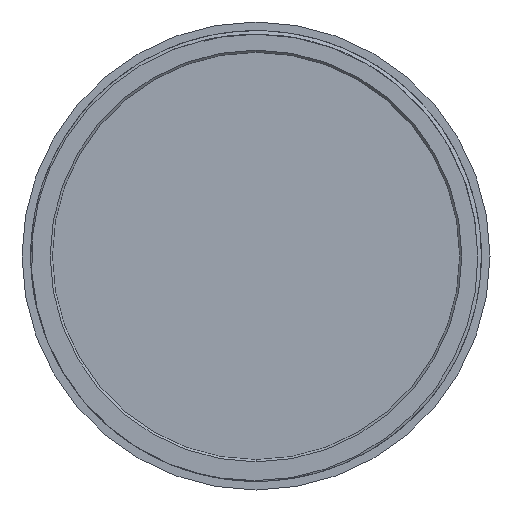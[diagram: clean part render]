
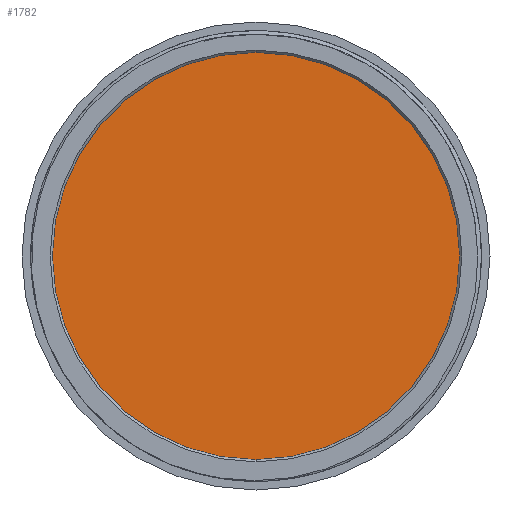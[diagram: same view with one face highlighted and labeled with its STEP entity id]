
A CAD part, front view. The second image highlights one B-rep face of the part: STEP entity #1782.
In plain terms, the highlighted planar face has unit normal (0, -1, 0).
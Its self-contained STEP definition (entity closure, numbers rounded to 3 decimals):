
#180 = ORIENTED_EDGE ( 'NONE', *, *, #1983, .F. ) ;
#231 = AXIS2_PLACEMENT_3D ( 'NONE', #948, #1196, #3210 ) ;
#307 = CIRCLE ( 'NONE', #2698, 24.25 ) ;
#386 = DIRECTION ( 'NONE',  ( 0., 1., 0. ) ) ;
#504 = VERTEX_POINT ( 'NONE', #1108 ) ;
#807 = EDGE_CURVE ( 'NONE', #1501, #504, #1984, .T. ) ;
#942 = FACE_OUTER_BOUND ( 'NONE', #2464, .T. ) ;
#948 = CARTESIAN_POINT ( 'NONE',  ( 0., 2.3, 0. ) ) ;
#1108 = CARTESIAN_POINT ( 'NONE',  ( 0., 2.3, -24.25 ) ) ;
#1128 = CARTESIAN_POINT ( 'NONE',  ( 0., 2.3, 0. ) ) ;
#1147 = CARTESIAN_POINT ( 'NONE',  ( 0., 2.3, 24.25 ) ) ;
#1191 = DIRECTION ( 'NONE',  ( 0., 1., 0. ) ) ;
#1196 = DIRECTION ( 'NONE',  ( 0., 1., 0. ) ) ;
#1444 = CARTESIAN_POINT ( 'NONE',  ( 0., 2.3, 0. ) ) ;
#1501 = VERTEX_POINT ( 'NONE', #1147 ) ;
#1782 = ADVANCED_FACE ( 'NONE', ( #942 ), #1956, .F. ) ;
#1909 = ORIENTED_EDGE ( 'NONE', *, *, #807, .F. ) ;
#1956 = PLANE ( 'NONE',  #2539 ) ;
#1983 = EDGE_CURVE ( 'NONE', #504, #1501, #307, .T. ) ;
#1984 = CIRCLE ( 'NONE', #231, 24.25 ) ;
#2459 = DIRECTION ( 'NONE',  ( 0., 0., 1. ) ) ;
#2464 = EDGE_LOOP ( 'NONE', ( #180, #1909 ) ) ;
#2539 = AXIS2_PLACEMENT_3D ( 'NONE', #1444, #1191, #2459 ) ;
#2644 = DIRECTION ( 'NONE',  ( 0., 0., 1. ) ) ;
#2698 = AXIS2_PLACEMENT_3D ( 'NONE', #1128, #386, #2644 ) ;
#3210 = DIRECTION ( 'NONE',  ( 0., 0., 1. ) ) ;
